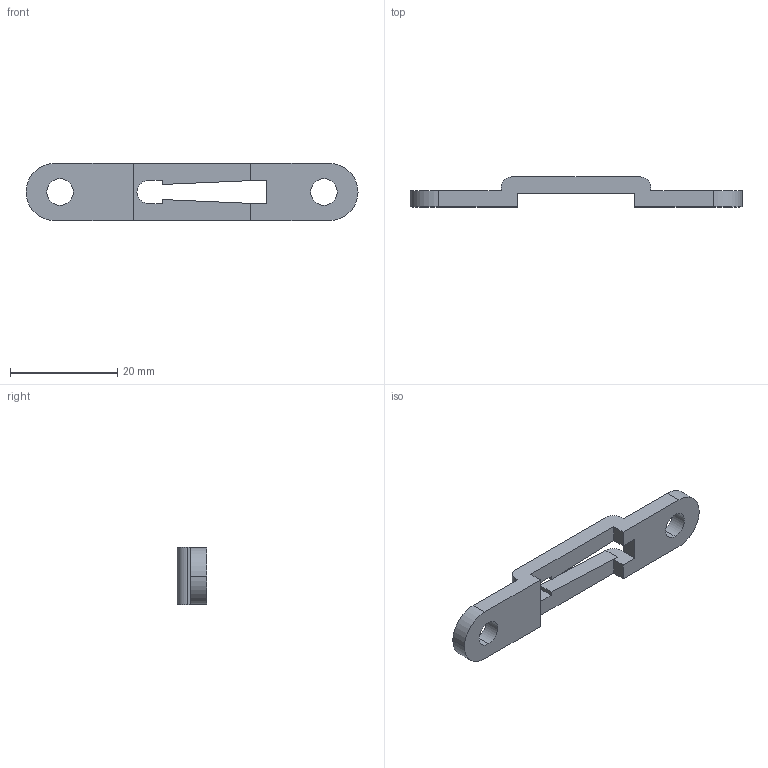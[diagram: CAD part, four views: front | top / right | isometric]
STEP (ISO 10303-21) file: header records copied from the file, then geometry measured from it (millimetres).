
FILE_DESCRIPTION (( 'STEP AP214' ), '1' );
FILE_NAME ('4063A_V01_REF_STP_SEMI-LOCKING_SINGLE_CLIP.STEP', '2025-04-09T21:01:35', ( '' ), ( '' ), 'SwSTEP 2.0', 'SolidWorks 2025', '' );
FILE_SCHEMA (( 'AUTOMOTIVE_DESIGN' ));
Length unit declared in the file: inch
Products named in the file (1): 4063A_V01_REF_STP_SEMI-LOCKING_SINGLE_CLIP
Bounding box: 61.93 x 5.59 x 10.67 mm (x, y, z)
Volume: 1666.6 mm3; surface area: 1811.8 mm2
Topology: 1 solids, 1 shells, 35 faces, 101 edges, 66 vertices
Faces by surface type: plane 23, cylinder 12
Entity records: 1186 total; most frequent: CARTESIAN_POINT 203, ORIENTED_EDGE 202, DIRECTION 197, EDGE_CURVE 101, LINE 77, VECTOR 77, VERTEX_POINT 66, AXIS2_PLACEMENT_3D 60
